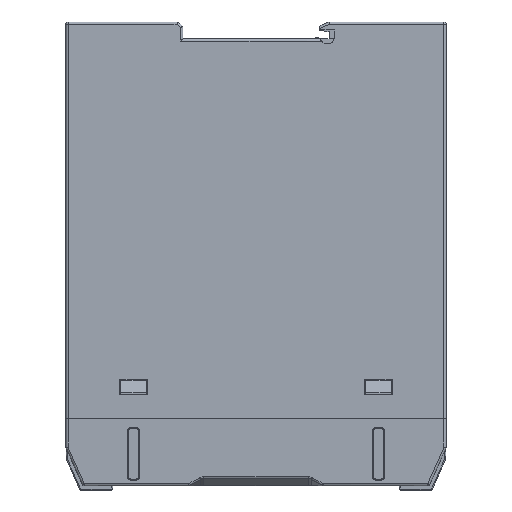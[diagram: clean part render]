
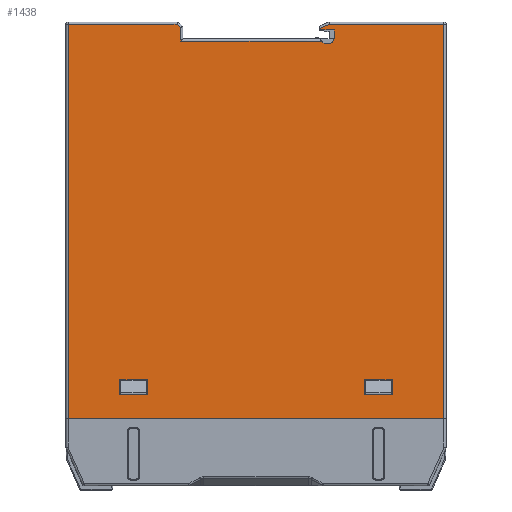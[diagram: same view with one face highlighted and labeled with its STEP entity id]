
A CAD part, front view. The second image highlights one B-rep face of the part: STEP entity #1438.
In plain terms, the highlighted planar face has unit normal (0, -1, 0).
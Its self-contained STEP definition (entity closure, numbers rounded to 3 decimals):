
#551=FACE_BOUND('',#4875,.T.);
#552=FACE_BOUND('',#4876,.T.);
#553=FACE_BOUND('',#4877,.T.);
#806=CIRCLE('',#25039,1.761);
#1438=ADVANCED_FACE('',(#551,#552,#553),#2648,.T.);
#2648=PLANE('',#25040);
#4875=EDGE_LOOP('',(#7605,#7606,#7607,#7608,#7609,#7610,#7611,#7612,#7613,
#7614,#7615,#7616,#7617,#7618,#7619));
#4876=EDGE_LOOP('',(#7620,#7621,#7622,#7623));
#4877=EDGE_LOOP('',(#7624,#7625,#7626,#7627));
#7605=ORIENTED_EDGE('',*,*,#16339,.T.);
#7606=ORIENTED_EDGE('',*,*,#16340,.T.);
#7607=ORIENTED_EDGE('',*,*,#16341,.F.);
#7608=ORIENTED_EDGE('',*,*,#16342,.F.);
#7609=ORIENTED_EDGE('',*,*,#16343,.F.);
#7610=ORIENTED_EDGE('',*,*,#16344,.F.);
#7611=ORIENTED_EDGE('',*,*,#16345,.F.);
#7612=ORIENTED_EDGE('',*,*,#16346,.F.);
#7613=ORIENTED_EDGE('',*,*,#16347,.T.);
#7614=ORIENTED_EDGE('',*,*,#16348,.T.);
#7615=ORIENTED_EDGE('',*,*,#16349,.T.);
#7616=ORIENTED_EDGE('',*,*,#16350,.T.);
#7617=ORIENTED_EDGE('',*,*,#16336,.T.);
#7618=ORIENTED_EDGE('',*,*,#16328,.T.);
#7619=ORIENTED_EDGE('',*,*,#16335,.T.);
#7620=ORIENTED_EDGE('',*,*,#16207,.F.);
#7621=ORIENTED_EDGE('',*,*,#16204,.F.);
#7622=ORIENTED_EDGE('',*,*,#16201,.F.);
#7623=ORIENTED_EDGE('',*,*,#16198,.F.);
#7624=ORIENTED_EDGE('',*,*,#16196,.F.);
#7625=ORIENTED_EDGE('',*,*,#16194,.F.);
#7626=ORIENTED_EDGE('',*,*,#16191,.F.);
#7627=ORIENTED_EDGE('',*,*,#16188,.F.);
#13653=VERTEX_POINT('',#34652);
#13655=VERTEX_POINT('',#34656);
#13657=VERTEX_POINT('',#34661);
#13659=VERTEX_POINT('',#34667);
#13660=VERTEX_POINT('',#34675);
#13662=VERTEX_POINT('',#34678);
#13664=VERTEX_POINT('',#34684);
#13666=VERTEX_POINT('',#34690);
#13751=VERTEX_POINT('',#34936);
#13752=VERTEX_POINT('',#34938);
#13756=VERTEX_POINT('',#34950);
#13757=VERTEX_POINT('',#34954);
#13759=VERTEX_POINT('',#34960);
#13760=VERTEX_POINT('',#34962);
#13761=VERTEX_POINT('',#34964);
#13762=VERTEX_POINT('',#34966);
#13763=VERTEX_POINT('',#34968);
#13764=VERTEX_POINT('',#34970);
#13765=VERTEX_POINT('',#34972);
#13766=VERTEX_POINT('',#34974);
#13767=VERTEX_POINT('',#34976);
#13768=VERTEX_POINT('',#34978);
#13769=VERTEX_POINT('',#34980);
#16188=EDGE_CURVE('',#13655,#13653,#19613,.T.);
#16191=EDGE_CURVE('',#13653,#13657,#19616,.T.);
#16194=EDGE_CURVE('',#13657,#13659,#19619,.T.);
#16196=EDGE_CURVE('',#13659,#13655,#19621,.T.);
#16198=EDGE_CURVE('',#13660,#13662,#19623,.T.);
#16201=EDGE_CURVE('',#13662,#13664,#19626,.T.);
#16204=EDGE_CURVE('',#13664,#13666,#19629,.T.);
#16207=EDGE_CURVE('',#13666,#13660,#19632,.T.);
#16328=EDGE_CURVE('',#13752,#13751,#19750,.T.);
#16335=EDGE_CURVE('',#13751,#13756,#19755,.T.);
#16336=EDGE_CURVE('',#13757,#13752,#19756,.T.);
#16339=EDGE_CURVE('',#13756,#13759,#19758,.T.);
#16340=EDGE_CURVE('',#13759,#13760,#19759,.T.);
#16341=EDGE_CURVE('',#13761,#13760,#19760,.T.);
#16342=EDGE_CURVE('',#13762,#13761,#19761,.T.);
#16343=EDGE_CURVE('',#13763,#13762,#19762,.T.);
#16344=EDGE_CURVE('',#13764,#13763,#19763,.T.);
#16345=EDGE_CURVE('',#13765,#13764,#19764,.T.);
#16346=EDGE_CURVE('',#13766,#13765,#806,.T.);
#16347=EDGE_CURVE('',#13766,#13767,#19765,.T.);
#16348=EDGE_CURVE('',#13767,#13768,#19766,.T.);
#16349=EDGE_CURVE('',#13768,#13769,#19767,.T.);
#16350=EDGE_CURVE('',#13769,#13757,#19768,.T.);
#19613=LINE('',#34657,#22639);
#19616=LINE('',#34663,#22642);
#19619=LINE('',#34669,#22645);
#19621=LINE('',#34672,#22647);
#19623=LINE('',#34677,#22649);
#19626=LINE('',#34683,#22652);
#19629=LINE('',#34689,#22655);
#19632=LINE('',#34695,#22658);
#19750=LINE('',#34937,#22776);
#19755=LINE('',#34951,#22781);
#19756=LINE('',#34953,#22782);
#19758=LINE('',#34959,#22784);
#19759=LINE('',#34961,#22785);
#19760=LINE('',#34963,#22786);
#19761=LINE('',#34965,#22787);
#19762=LINE('',#34967,#22788);
#19763=LINE('',#34969,#22789);
#19764=LINE('',#34971,#22790);
#19765=LINE('',#34975,#22791);
#19766=LINE('',#34977,#22792);
#19767=LINE('',#34979,#22793);
#19768=LINE('',#34981,#22794);
#22639=VECTOR('',#27932,1.);
#22642=VECTOR('',#27937,1.);
#22645=VECTOR('',#27942,1.);
#22647=VECTOR('',#27946,1.);
#22649=VECTOR('',#27950,1.);
#22652=VECTOR('',#27955,1.);
#22655=VECTOR('',#27960,1.);
#22658=VECTOR('',#27965,1.);
#22776=VECTOR('',#28163,1.);
#22781=VECTOR('',#28176,1.);
#22782=VECTOR('',#28179,1.);
#22784=VECTOR('',#28185,1.);
#22785=VECTOR('',#28186,1.);
#22786=VECTOR('',#28187,1.);
#22787=VECTOR('',#28188,1.);
#22788=VECTOR('',#28189,1.);
#22789=VECTOR('',#28190,1.);
#22790=VECTOR('',#28191,1.);
#22791=VECTOR('',#28194,1.);
#22792=VECTOR('',#28195,1.);
#22793=VECTOR('',#28196,1.);
#22794=VECTOR('',#28197,1.);
#25039=AXIS2_PLACEMENT_3D('',#34973,#28192,#28193);
#25040=AXIS2_PLACEMENT_3D('',#34982,#28198,#28199);
#27932=DIRECTION('',(1.,0.,0.));
#27937=DIRECTION('',(0.,0.,1.));
#27942=DIRECTION('',(-1.,0.,0.));
#27946=DIRECTION('',(0.,0.,-1.));
#27950=DIRECTION('',(-1.,0.,0.));
#27955=DIRECTION('',(0.,0.,-1.));
#27960=DIRECTION('',(1.,0.,0.));
#27965=DIRECTION('',(0.,0.,1.));
#28163=DIRECTION('',(1.,0.,0.));
#28176=DIRECTION('',(0.,0.,1.));
#28179=DIRECTION('',(0.,0.,-1.));
#28185=DIRECTION('',(-1.,0.,0.));
#28186=DIRECTION('',(-0.914,0.,-0.407));
#28187=DIRECTION('',(0.,0.,1.));
#28188=DIRECTION('',(-0.982,0.,0.191));
#28189=DIRECTION('',(0.,0.,-1.));
#28190=DIRECTION('',(-1.,0.,0.));
#28191=DIRECTION('',(0.,0.,1.));
#28192=DIRECTION('',(0.,-1.,0.));
#28193=DIRECTION('',(-1.,0.,0.));
#28194=DIRECTION('',(-1.,0.,0.));
#28195=DIRECTION('',(0.,0.,1.));
#28196=DIRECTION('',(-0.766,0.,0.643));
#28197=DIRECTION('',(-1.,0.,0.));
#28198=DIRECTION('',(0.,-1.,0.));
#28199=DIRECTION('',(0.,0.,-1.));
#34652=CARTESIAN_POINT('',(32.393,-16.096,8.601));
#34656=CARTESIAN_POINT('',(25.955,-16.096,8.601));
#34657=CARTESIAN_POINT('',(32.293,-16.096,8.601));
#34661=CARTESIAN_POINT('',(32.393,-16.096,12.223));
#34663=CARTESIAN_POINT('',(32.393,-16.096,-13.078));
#34667=CARTESIAN_POINT('',(25.955,-16.096,12.223));
#34669=CARTESIAN_POINT('',(26.055,-16.096,12.223));
#34672=CARTESIAN_POINT('',(25.955,-16.096,-13.078));
#34675=CARTESIAN_POINT('',(-25.955,-16.096,12.223));
#34677=CARTESIAN_POINT('',(-26.055,-16.096,12.223));
#34678=CARTESIAN_POINT('',(-32.393,-16.096,12.223));
#34683=CARTESIAN_POINT('',(-32.393,-16.096,-13.078));
#34684=CARTESIAN_POINT('',(-32.393,-16.096,8.601));
#34689=CARTESIAN_POINT('',(-32.293,-16.096,8.601));
#34690=CARTESIAN_POINT('',(-25.955,-16.096,8.601));
#34695=CARTESIAN_POINT('',(-25.955,-16.096,-13.078));
#34936=CARTESIAN_POINT('',(44.767,-16.096,3.018));
#34937=CARTESIAN_POINT('',(45.27,-16.096,3.018));
#34938=CARTESIAN_POINT('',(-44.767,-16.096,3.018));
#34950=CARTESIAN_POINT('',(44.767,-16.096,96.878));
#34951=CARTESIAN_POINT('',(44.767,-16.096,97.381));
#34953=CARTESIAN_POINT('',(-44.767,-16.096,3.018));
#34954=CARTESIAN_POINT('',(-44.767,-16.096,96.878));
#34959=CARTESIAN_POINT('',(17.404,-16.096,96.878));
#34960=CARTESIAN_POINT('',(17.511,-16.096,96.878));
#34961=CARTESIAN_POINT('',(-37.96,-16.096,72.181));
#34962=CARTESIAN_POINT('',(15.09,-16.096,95.8));
#34963=CARTESIAN_POINT('',(15.09,-16.096,95.479));
#34964=CARTESIAN_POINT('',(15.09,-16.096,95.479));
#34965=CARTESIAN_POINT('',(18.712,-16.096,94.775));
#34966=CARTESIAN_POINT('',(15.175,-16.096,95.463));
#34967=CARTESIAN_POINT('',(15.175,-16.096,93.91));
#34968=CARTESIAN_POINT('',(15.175,-16.096,95.479));
#34969=CARTESIAN_POINT('',(15.175,-16.096,95.479));
#34970=CARTESIAN_POINT('',(18.696,-16.096,95.479));
#34971=CARTESIAN_POINT('',(18.696,-16.096,95.479));
#34972=CARTESIAN_POINT('',(18.696,-16.096,93.91));
#34973=CARTESIAN_POINT('',(16.935,-16.096,93.91));
#34974=CARTESIAN_POINT('',(15.527,-16.096,92.854));
#34975=CARTESIAN_POINT('',(-17.404,-16.096,92.854));
#34976=CARTESIAN_POINT('',(-17.907,-16.096,92.854));
#34977=CARTESIAN_POINT('',(-17.907,-16.096,96.354));
#34978=CARTESIAN_POINT('',(-17.907,-16.096,96.119));
#34979=CARTESIAN_POINT('',(-18.951,-16.096,96.995));
#34980=CARTESIAN_POINT('',(-18.811,-16.096,96.878));
#34981=CARTESIAN_POINT('',(-44.767,-16.096,96.878));
#34982=CARTESIAN_POINT('',(0.,-16.096,-13.078));
